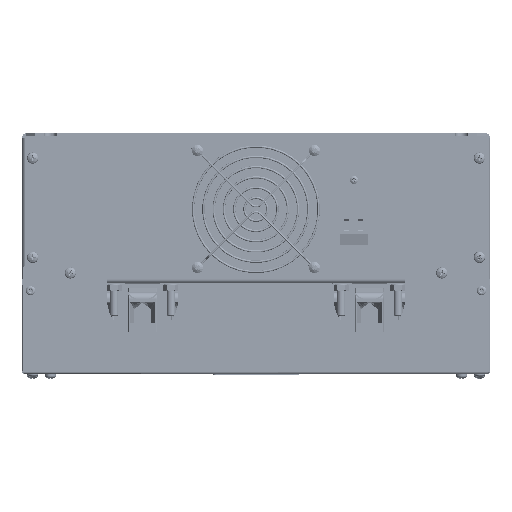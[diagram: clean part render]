
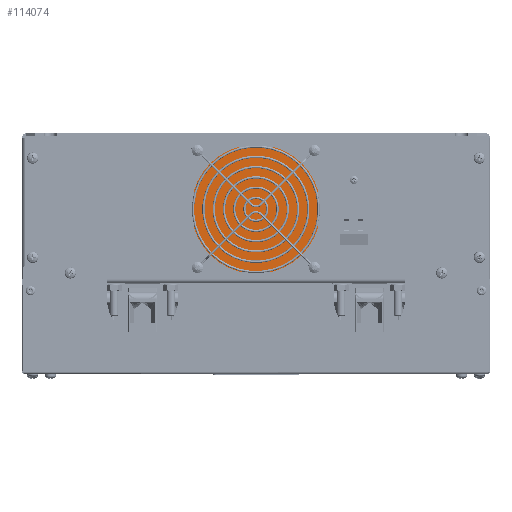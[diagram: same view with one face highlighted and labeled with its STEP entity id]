
A CAD part, left-side view. The second image highlights one B-rep face of the part: STEP entity #114074.
In plain terms, the highlighted planar face has unit normal (-1, 0, 0).
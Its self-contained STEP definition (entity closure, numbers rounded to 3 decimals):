
#2812=PLANE('',#121511);
#6117=FACE_OUTER_BOUND('',#12343,.T.);
#12343=EDGE_LOOP('',(#74997,#74998,#74999,#75000,#75001,#75002,#75003,#75004));
#20300=CIRCLE('',#121512,45.65);
#20301=CIRCLE('',#121513,45.65);
#20302=CIRCLE('',#121514,45.65);
#20303=CIRCLE('',#121515,45.65);
#25837=LINE('',#169993,#35956);
#25838=LINE('',#169997,#35957);
#25839=LINE('',#170001,#35958);
#25840=LINE('',#170004,#35959);
#35956=VECTOR('',#135727,10.);
#35957=VECTOR('',#135730,10.);
#35958=VECTOR('',#135733,10.);
#35959=VECTOR('',#135736,10.);
#47207=VERTEX_POINT('',#169989);
#47208=VERTEX_POINT('',#169990);
#47209=VERTEX_POINT('',#169992);
#47210=VERTEX_POINT('',#169994);
#47211=VERTEX_POINT('',#169996);
#47212=VERTEX_POINT('',#169998);
#47213=VERTEX_POINT('',#170000);
#47214=VERTEX_POINT('',#170002);
#58289=EDGE_CURVE('',#47207,#47208,#20300,.T.);
#58290=EDGE_CURVE('',#47208,#47209,#25837,.T.);
#58291=EDGE_CURVE('',#47209,#47210,#20301,.T.);
#58292=EDGE_CURVE('',#47210,#47211,#25838,.T.);
#58293=EDGE_CURVE('',#47211,#47212,#20302,.T.);
#58294=EDGE_CURVE('',#47212,#47213,#25839,.T.);
#58295=EDGE_CURVE('',#47213,#47214,#20303,.T.);
#58296=EDGE_CURVE('',#47214,#47207,#25840,.T.);
#74997=ORIENTED_EDGE('',*,*,#58289,.T.);
#74998=ORIENTED_EDGE('',*,*,#58290,.T.);
#74999=ORIENTED_EDGE('',*,*,#58291,.T.);
#75000=ORIENTED_EDGE('',*,*,#58292,.T.);
#75001=ORIENTED_EDGE('',*,*,#58293,.T.);
#75002=ORIENTED_EDGE('',*,*,#58294,.T.);
#75003=ORIENTED_EDGE('',*,*,#58295,.T.);
#75004=ORIENTED_EDGE('',*,*,#58296,.T.);
#114074=ADVANCED_FACE('',(#6117),#2812,.T.);
#121511=AXIS2_PLACEMENT_3D('',#169988,#135723,#135724);
#121512=AXIS2_PLACEMENT_3D('',#169991,#135725,#135726);
#121513=AXIS2_PLACEMENT_3D('',#169995,#135728,#135729);
#121514=AXIS2_PLACEMENT_3D('',#169999,#135731,#135732);
#121515=AXIS2_PLACEMENT_3D('',#170003,#135734,#135735);
#135723=DIRECTION('center_axis',(-1.,0.,0.));
#135724=DIRECTION('ref_axis',(0.,0.,-1.));
#135725=DIRECTION('center_axis',(-1.,0.,0.));
#135726=DIRECTION('ref_axis',(0.,0.266,0.964));
#135727=DIRECTION('',(0.,0.,1.));
#135728=DIRECTION('center_axis',(-1.,0.,0.));
#135729=DIRECTION('ref_axis',(0.,0.964,-0.266));
#135730=DIRECTION('',(0.,1.,0.));
#135731=DIRECTION('center_axis',(-1.,0.,0.));
#135732=DIRECTION('ref_axis',(0.,-0.266,
-0.964));
#135733=DIRECTION('',(0.,0.,-1.));
#135734=DIRECTION('center_axis',(-1.,0.,0.));
#135735=DIRECTION('ref_axis',(0.,-0.964,0.266));
#135736=DIRECTION('',(0.,-1.,0.));
#169988=CARTESIAN_POINT('Origin',(-241.5,-0.5,
0.));
#169989=CARTESIAN_POINT('',(-241.5,-12.162,-95.5));
#169990=CARTESIAN_POINT('',(-241.5,-44.,-63.662));
#169991=CARTESIAN_POINT('Origin',(-241.5,0.,
-51.5));
#169992=CARTESIAN_POINT('',(-241.5,-44.,-39.338));
#169993=CARTESIAN_POINT('',(-241.5,-44.,-45.756));
#169994=CARTESIAN_POINT('',(-241.5,-12.162,-7.5));
#169995=CARTESIAN_POINT('Origin',(-241.5,0.,
-51.5));
#169996=CARTESIAN_POINT('',(-241.5,12.162,-7.5));
#169997=CARTESIAN_POINT('',(-241.5,6.081,-7.5));
#169998=CARTESIAN_POINT('',(-241.5,44.,-39.338));
#169999=CARTESIAN_POINT('Origin',(-241.5,0.,
-51.5));
#170000=CARTESIAN_POINT('',(-241.5,44.,-63.662));
#170001=CARTESIAN_POINT('',(-241.5,44.,-57.919));
#170002=CARTESIAN_POINT('',(-241.5,12.162,-95.5));
#170003=CARTESIAN_POINT('Origin',(-241.5,0.,
-51.5));
#170004=CARTESIAN_POINT('',(-241.5,-6.081,-95.5));
